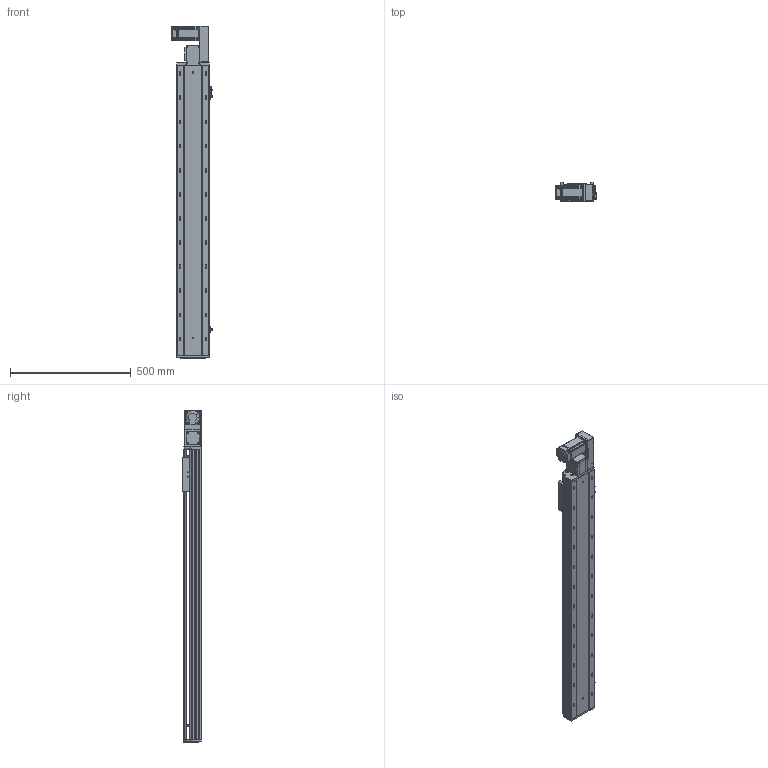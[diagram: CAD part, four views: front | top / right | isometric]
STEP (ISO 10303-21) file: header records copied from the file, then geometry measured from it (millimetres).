
FILE_DESCRIPTION (( 'STEP AP203' ), '1' );
FILE_NAME ('RY140-T-300-RK.SLDASM_950.step', '2021-03-01T06:45:45', ( '盈信电脑' ), ( '东莞市道滘镇水果街19号' ), 'SwSTEP 2.0', 'SolidWorks 2012', '' );
FILE_SCHEMA (( 'CONFIG_CONTROL_DESIGN' ));
Products named in the file (17): 15; RY140-T-300-RK.SLDASM_950; RY120-T主同步轮轴承压盖; RY120-T蹟翐M4; RY140-T萇儂假蚾啣; RY140-T萇儂欶; RY120-T肮祭湍揤踡輸1; RY140-T翋肮祭謫盓傅釱; RY140-T翋肮謫裔啣; 滅袉蝶18-10; RY120外置感应片(140共用）; 覜茼ん672; RY140綴裔啣; RY120-T肮祭湍揤踡輸2; RY140-T-300-DR倰第菁釱_950; RY140-T-300-DR倰第奻裔啣_950; RY140肮祭謫臏賑輸
Assembly tree (22 placements, depth 2):
  RY140-T-300-RK.SLDASM_950
    RY140-T-300-DR倰第菁釱_950
    RY140肮祭謫臏賑輸
    RY140-T-300-DR倰第奻裔啣_950
    RY140綴裔啣
    覜茼ん672  x3
    RY120外置感应片(140共用）
    RY120-T肮祭湍揤踡輸2
    RY120-T肮祭湍揤踡輸1
    RY140-T翋肮祭謫盓傅釱
    滅袉蝶18-10  x2
    RY140-T翋肮謫裔啣
    RY140-T萇儂欶
    RY140-T萇儂假蚾啣
    RY120-T蹟翐M4  x4
    15
    RY120-T主同步轮轴承压盖
Bounding box: 170.7 x 78 x 1376.5 mm (x, y, z)
Volume: 3869593.1 mm3; surface area: 1476772 mm2
Topology: 22 solids, 22 shells, 2743 faces, 7577 edges, 4868 vertices
Faces by surface type: plane 1381, cylinder 1044, cone 218, bspline 100
Entity records: 87530 total; most frequent: CARTESIAN_POINT 21575, ORIENTED_EDGE 13642, DIRECTION 12873, EDGE_CURVE 6821, VERTEX_POINT 4467, VECTOR 4293, LINE 4293, AXIS2_PLACEMENT_3D 4290
